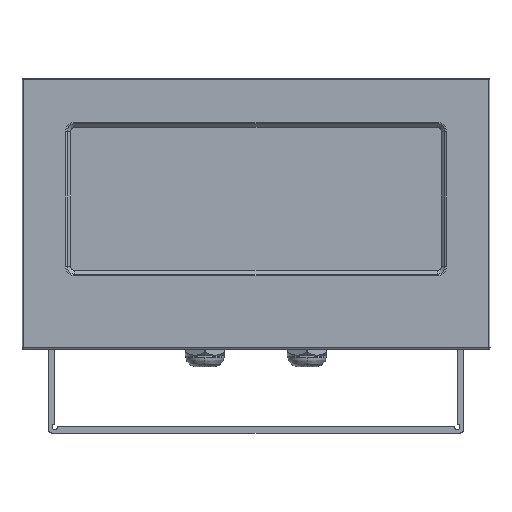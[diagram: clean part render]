
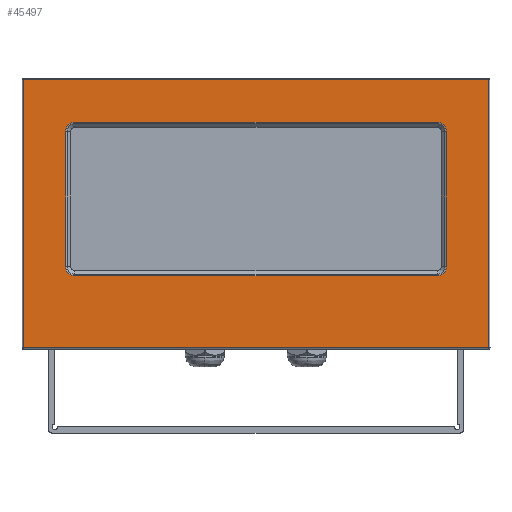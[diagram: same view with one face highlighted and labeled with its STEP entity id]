
A CAD part, top view. The second image highlights one B-rep face of the part: STEP entity #45497.
In plain terms, the highlighted planar face has unit normal (0, 0, 1).
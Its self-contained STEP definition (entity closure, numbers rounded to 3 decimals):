
#41704=DIRECTION('',(-1.,0.,0.));
#41705=VECTOR('',#41704,219.166);
#41706=CARTESIAN_POINT('',(109.583,63.083,0.));
#41707=LINE('',#41706,#41705);
#41745=DIRECTION('',(0.,1.,0.));
#41746=VECTOR('',#41745,126.166);
#41747=CARTESIAN_POINT('',(109.583,-63.083,0.));
#41748=LINE('',#41747,#41746);
#41786=DIRECTION('',(1.,0.,0.));
#41787=VECTOR('',#41786,219.166);
#41788=CARTESIAN_POINT('',(-109.583,-63.083,0.));
#41789=LINE('',#41788,#41787);
#41827=DIRECTION('',(0.,-1.,0.));
#41828=VECTOR('',#41827,126.166);
#41829=CARTESIAN_POINT('',(-109.583,63.083,0.));
#41830=LINE('',#41829,#41828);
#41843=CARTESIAN_POINT('',(85.2,-24.7,0.));
#41844=DIRECTION('',(0.,0.,1.));
#41845=DIRECTION('',(0.,-1.,0.));
#41846=AXIS2_PLACEMENT_3D('',#41843,#41844,#41845);
#41848=CARTESIAN_POINT('',(85.2,38.7,0.));
#41849=DIRECTION('',(0.,0.,1.));
#41850=DIRECTION('',(1.,0.,0.));
#41851=AXIS2_PLACEMENT_3D('',#41848,#41849,#41850);
#41853=CARTESIAN_POINT('',(-85.2,38.7,0.));
#41854=DIRECTION('',(0.,0.,1.));
#41855=DIRECTION('',(0.,1.,0.));
#41856=AXIS2_PLACEMENT_3D('',#41853,#41854,#41855);
#41858=CARTESIAN_POINT('',(-85.2,-24.7,0.));
#41859=DIRECTION('',(0.,0.,1.));
#41860=DIRECTION('',(-1.,0.,0.));
#41861=AXIS2_PLACEMENT_3D('',#41858,#41859,#41860);
#41878=DIRECTION('',(-1.,0.,0.));
#41879=VECTOR('',#41878,170.4);
#41880=CARTESIAN_POINT('',(85.2,-29.114,0.));
#41881=LINE('',#41880,#41879);
#41901=DIRECTION('',(0.,1.,0.));
#41902=VECTOR('',#41901,63.4);
#41903=CARTESIAN_POINT('',(-89.614,-24.7,0.));
#41904=LINE('',#41903,#41902);
#41924=DIRECTION('',(1.,0.,0.));
#41925=VECTOR('',#41924,170.4);
#41926=CARTESIAN_POINT('',(-85.2,43.114,0.));
#41927=LINE('',#41926,#41925);
#41947=DIRECTION('',(0.,-1.,0.));
#41948=VECTOR('',#41947,63.4);
#41949=CARTESIAN_POINT('',(89.614,38.7,0.));
#41950=LINE('',#41949,#41948);
#44422=CARTESIAN_POINT('',(-109.583,63.083,0.));
#44423=VERTEX_POINT('',#44422);
#44426=CARTESIAN_POINT('',(109.583,63.083,0.));
#44427=VERTEX_POINT('',#44426);
#44432=CARTESIAN_POINT('',(109.583,-63.083,0.));
#44433=VERTEX_POINT('',#44432);
#44438=CARTESIAN_POINT('',(-109.583,-63.083,0.));
#44439=VERTEX_POINT('',#44438);
#44442=CARTESIAN_POINT('',(85.2,-29.114,0.));
#44443=CARTESIAN_POINT('',(89.614,-24.7,0.));
#44444=VERTEX_POINT('',#44442);
#44445=VERTEX_POINT('',#44443);
#44446=CARTESIAN_POINT('',(89.614,38.7,0.));
#44447=VERTEX_POINT('',#44446);
#44448=CARTESIAN_POINT('',(85.2,43.114,0.));
#44449=VERTEX_POINT('',#44448);
#44450=CARTESIAN_POINT('',(-85.2,43.114,0.));
#44451=VERTEX_POINT('',#44450);
#44452=CARTESIAN_POINT('',(-89.614,38.7,0.));
#44453=VERTEX_POINT('',#44452);
#44454=CARTESIAN_POINT('',(-89.614,-24.7,0.));
#44455=VERTEX_POINT('',#44454);
#44456=CARTESIAN_POINT('',(-85.2,-29.114,0.));
#44457=VERTEX_POINT('',#44456);
#45468=CARTESIAN_POINT('',(0.,0.,0.));
#45469=DIRECTION('',(0.,0.,1.));
#45470=DIRECTION('',(1.,0.,0.));
#45471=AXIS2_PLACEMENT_3D('',#45468,#45469,#45470);
#45472=PLANE('',#45471);
#45473=ORIENTED_EDGE('',*,*,#45343,.F.);
#45474=ORIENTED_EDGE('',*,*,#45397,.F.);
#45475=ORIENTED_EDGE('',*,*,#45450,.F.);
#45476=ORIENTED_EDGE('',*,*,#45289,.F.);
#45477=EDGE_LOOP('',(#45473,#45474,#45475,#45476));
#45478=FACE_OUTER_BOUND('',#45477,.F.);
#45480=ORIENTED_EDGE('',*,*,#45479,.T.);
#45482=ORIENTED_EDGE('',*,*,#45481,.F.);
#45484=ORIENTED_EDGE('',*,*,#45483,.T.);
#45486=ORIENTED_EDGE('',*,*,#45485,.F.);
#45488=ORIENTED_EDGE('',*,*,#45487,.T.);
#45490=ORIENTED_EDGE('',*,*,#45489,.F.);
#45492=ORIENTED_EDGE('',*,*,#45491,.T.);
#45494=ORIENTED_EDGE('',*,*,#45493,.F.);
#45495=EDGE_LOOP('',(#45480,#45482,#45484,#45486,#45488,#45490,#45492,#45494));
#45496=FACE_BOUND('',#45495,.F.);
#45497=ADVANCED_FACE('',(#45478,#45496),#45472,.T.);
#41847=CIRCLE('',#41846,4.414);
#41852=CIRCLE('',#41851,4.414);
#41857=CIRCLE('',#41856,4.414);
#41862=CIRCLE('',#41861,4.414);
#45289=EDGE_CURVE('',#44427,#44423,#41707,.T.);
#45343=EDGE_CURVE('',#44433,#44427,#41748,.T.);
#45397=EDGE_CURVE('',#44439,#44433,#41789,.T.);
#45450=EDGE_CURVE('',#44423,#44439,#41830,.T.);
#45479=EDGE_CURVE('',#44444,#44445,#41847,.T.);
#45481=EDGE_CURVE('',#44447,#44445,#41950,.T.);
#45483=EDGE_CURVE('',#44447,#44449,#41852,.T.);
#45485=EDGE_CURVE('',#44451,#44449,#41927,.T.);
#45487=EDGE_CURVE('',#44451,#44453,#41857,.T.);
#45489=EDGE_CURVE('',#44455,#44453,#41904,.T.);
#45491=EDGE_CURVE('',#44455,#44457,#41862,.T.);
#45493=EDGE_CURVE('',#44444,#44457,#41881,.T.);
